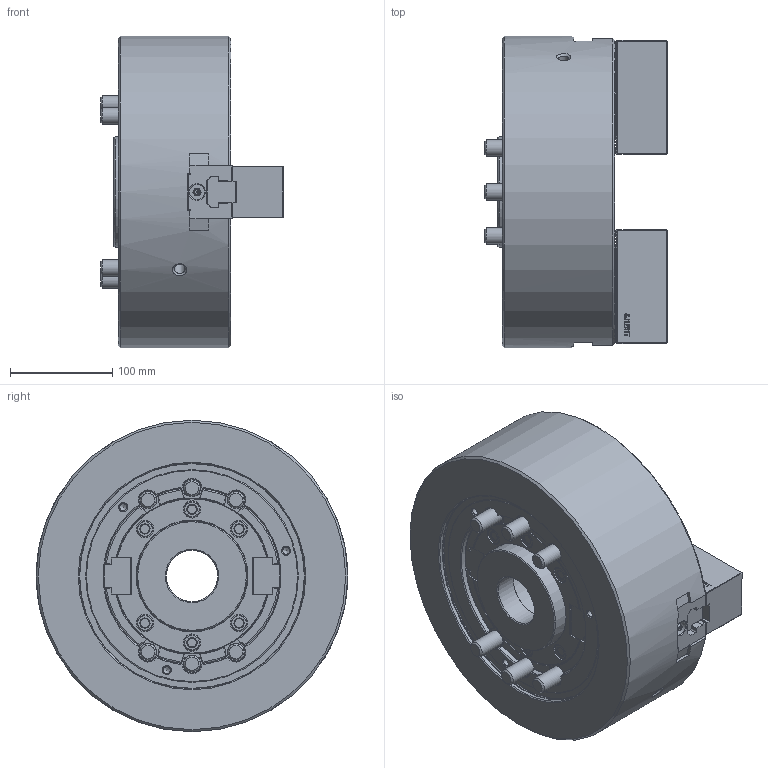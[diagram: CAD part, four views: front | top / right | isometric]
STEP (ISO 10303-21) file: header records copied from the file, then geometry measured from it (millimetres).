
FILE_DESCRIPTION (( 'STEP AP214' ), '1' );
FILE_NAME ('DT1_BT212_OUTSIDE_VIEW_HOL.STEP', '2024-05-09T02:31:21', ( '' ), ( '' ), 'SwSTEP 2.0', 'SolidWorks 2022', '' );
FILE_SCHEMA (( 'AUTOMOTIVE_DESIGN' ));
Length unit declared in the file: millimetre
Products named in the file (9): DT1_BT212_M16x110^DT1-BT212_ﾃﾞﾌｫﾙﾄ; DT1_BT212_TNUT^DT1-BT212_ﾃﾞﾌｫﾙﾄ; DT1_BT212_COVER^DT1-BT212_ﾃﾞﾌｫﾙﾄ; DT1_BT212_DRAWNUT^DT1-BT212_ﾃﾞﾌｫﾙﾄ; DT1_BT212_SOFTJAW^DT1-BT212_ﾃﾞﾌｫﾙﾄ; DT1_BT212_OUTSIDE_VIEW_HOL; DT1_BT212_M6x10^DT1-BT212_ﾃﾞﾌｫﾙﾄ; DT1_BT212_M16x40^DT1-BT212_ﾃﾞﾌｫﾙﾄ; DT1_BT212_BASE^DT1-BT212_ﾃﾞﾌｫﾙﾄ
Assembly tree (21 placements, depth 2):
  DT1_BT212_OUTSIDE_VIEW_HOL
    DT1_BT212_SOFTJAW^DT1-BT212_ﾃﾞﾌｫﾙﾄ  x2
    DT1_BT212_TNUT^DT1-BT212_ﾃﾞﾌｫﾙﾄ  x2
    DT1_BT212_DRAWNUT^DT1-BT212_ﾃﾞﾌｫﾙﾄ
    DT1_BT212_COVER^DT1-BT212_ﾃﾞﾌｫﾙﾄ
    DT1_BT212_BASE^DT1-BT212_ﾃﾞﾌｫﾙﾄ
    DT1_BT212_M6x10^DT1-BT212_ﾃﾞﾌｫﾙﾄ  x4
    DT1_BT212_M16x40^DT1-BT212_ﾃﾞﾌｫﾙﾄ  x4
    DT1_BT212_M16x110^DT1-BT212_ﾃﾞﾌｫﾙﾄ  x6
Bounding box: 178 x 304 x 304 mm (x, y, z)
Volume: 7529976 mm3; surface area: 601075.4 mm2
Topology: 21 solids, 21 shells, 3939 faces, 11191 edges, 7384 vertices
Faces by surface type: plane 2609, cylinder 798, cone 272, bspline 213, torus 45, sphere 2
Full cylindrical faces by diameter (mm): 2 x2, 5 x4, 6 x4, 6.6 x4, 6.8 x3, 10.2 x2, 10.5 x4, 11 x4, 14 x4, 15 x2, 16 x10, 17 x16, 24.33 x10, 25 x10, 50 x1, 91 x2, 96 x2, 101 x1, 108 x2, 220 x1, 220.8 x1, 304 x1
Entity records: 104837 total; most frequent: CARTESIAN_POINT 31073, ORIENTED_EDGE 16730, DIRECTION 13020, EDGE_CURVE 8365, LINE 5878, VECTOR 5878, VERTEX_POINT 5601, AXIS2_PLACEMENT_3D 3571
